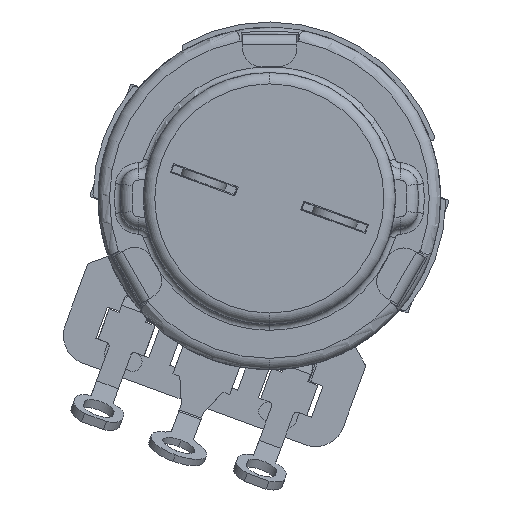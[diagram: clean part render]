
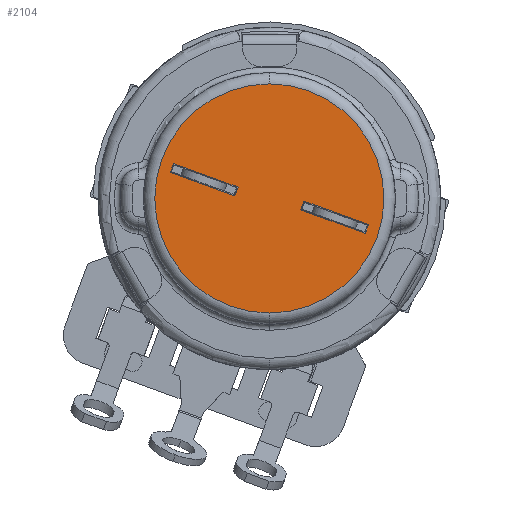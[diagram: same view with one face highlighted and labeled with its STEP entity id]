
A CAD part, front view. The second image highlights one B-rep face of the part: STEP entity #2104.
In plain terms, the highlighted planar face has unit normal (0, -1, 0).
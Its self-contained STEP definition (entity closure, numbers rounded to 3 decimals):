
#1122 = VERTEX_POINT ( 'NONE', #14510 ) ;
#1621 = VERTEX_POINT ( 'NONE', #24437 ) ;
#1655 = CARTESIAN_POINT ( 'NONE',  ( -2.382, 0., 0.178 ) ) ;
#1761 = DIRECTION ( 'NONE',  ( 0., 0., 1. ) ) ;
#1810 = DIRECTION ( 'NONE',  ( 0.94, 0., -0.342 ) ) ;
#1866 = VECTOR ( 'NONE', #20699, 1000. ) ;
#1907 = PLANE ( 'NONE',  #27966 ) ;
#2078 = VERTEX_POINT ( 'NONE', #2204 ) ;
#2104 = ADVANCED_FACE ( 'NONE', ( #17840, #26489, #6535 ), #1907, .F. ) ;
#2204 = CARTESIAN_POINT ( 'NONE',  ( -6.611, 0., 2.406 ) ) ;
#2233 = CARTESIAN_POINT ( 'NONE',  ( 6.611, 0., -2.406 ) ) ;
#2638 = CARTESIAN_POINT ( 'NONE',  ( 0., 0., 0. ) ) ;
#3034 = EDGE_CURVE ( 'NONE', #10848, #2078, #11618, .T. ) ;
#3601 = AXIS2_PLACEMENT_3D ( 'NONE', #2638, #11717, #18420 ) ;
#3734 = EDGE_LOOP ( 'NONE', ( #11637, #5419, #7042, #28507 ) ) ;
#3819 = CARTESIAN_POINT ( 'NONE',  ( 6.833, 0., -1.798 ) ) ;
#3838 = DIRECTION ( 'NONE',  ( 0., 1., 0. ) ) ;
#4806 = LINE ( 'NONE', #13888, #14858 ) ;
#4855 = EDGE_CURVE ( 'NONE', #7430, #20958, #13603, .T. ) ;
#5419 = ORIENTED_EDGE ( 'NONE', *, *, #17107, .F. ) ;
#5718 = ORIENTED_EDGE ( 'NONE', *, *, #3034, .F. ) ;
#6005 = LINE ( 'NONE', #12268, #27717 ) ;
#6335 = VERTEX_POINT ( 'NONE', #11236 ) ;
#6406 = DIRECTION ( 'NONE',  ( 0.342, 0., 0.94 ) ) ;
#6535 = FACE_OUTER_BOUND ( 'NONE', #15037, .T. ) ;
#7042 = ORIENTED_EDGE ( 'NONE', *, *, #12045, .F. ) ;
#7050 = VERTEX_POINT ( 'NONE', #2233 ) ;
#7430 = VERTEX_POINT ( 'NONE', #18668 ) ;
#9025 = CARTESIAN_POINT ( 'NONE',  ( 0., 0., 0. ) ) ;
#9238 = CARTESIAN_POINT ( 'NONE',  ( -6.611, 0., 2.406 ) ) ;
#9321 = DIRECTION ( 'NONE',  ( 0., 0., 1. ) ) ;
#9551 = DIRECTION ( 'NONE',  ( -0.342, 0., -0.94 ) ) ;
#9868 = CARTESIAN_POINT ( 'NONE',  ( -2.16, 0., 0.786 ) ) ;
#10848 = VERTEX_POINT ( 'NONE', #9868 ) ;
#10851 = CARTESIAN_POINT ( 'NONE',  ( -2.16, 0., 0.786 ) ) ;
#10877 = EDGE_LOOP ( 'NONE', ( #28979, #5718, #24051, #13261 ) ) ;
#10963 = VECTOR ( 'NONE', #13677, 1000. ) ;
#11211 = ORIENTED_EDGE ( 'NONE', *, *, #4855, .T. ) ;
#11236 = CARTESIAN_POINT ( 'NONE',  ( -2.382, 0., 0.178 ) ) ;
#11618 = LINE ( 'NONE', #9238, #1866 ) ;
#11637 = ORIENTED_EDGE ( 'NONE', *, *, #28220, .F. ) ;
#11681 = CARTESIAN_POINT ( 'NONE',  ( 2.16, 0., -0.786 ) ) ;
#11682 = VECTOR ( 'NONE', #22427, 1000. ) ;
#11717 = DIRECTION ( 'NONE',  ( 0., -1., 0. ) ) ;
#11850 = DIRECTION ( 'NONE',  ( 0., -1., 0. ) ) ;
#11912 = VERTEX_POINT ( 'NONE', #11681 ) ;
#12045 = EDGE_CURVE ( 'NONE', #11912, #7050, #6005, .T. ) ;
#12268 = CARTESIAN_POINT ( 'NONE',  ( 2.16, 0., -0.786 ) ) ;
#12977 = LINE ( 'NONE', #1655, #24611 ) ;
#13261 = ORIENTED_EDGE ( 'NONE', *, *, #25197, .F. ) ;
#13603 = CIRCLE ( 'NONE', #3601, 7.899 ) ;
#13677 = DIRECTION ( 'NONE',  ( -0.342, 0., -0.94 ) ) ;
#13888 = CARTESIAN_POINT ( 'NONE',  ( 2.382, 0., -0.178 ) ) ;
#14400 = EDGE_CURVE ( 'NONE', #1122, #11912, #4806, .T. ) ;
#14510 = CARTESIAN_POINT ( 'NONE',  ( 2.382, 0., -0.178 ) ) ;
#14686 = LINE ( 'NONE', #28530, #19193 ) ;
#14794 = DIRECTION ( 'NONE',  ( 0.94, 0., -0.342 ) ) ;
#14858 = VECTOR ( 'NONE', #9551, 1000. ) ;
#15037 = EDGE_LOOP ( 'NONE', ( #11211, #23340 ) ) ;
#17107 = EDGE_CURVE ( 'NONE', #7050, #1621, #14686, .T. ) ;
#17706 = LINE ( 'NONE', #10851, #19506 ) ;
#17840 = FACE_BOUND ( 'NONE', #10877, .T. ) ;
#18420 = DIRECTION ( 'NONE',  ( 0., 0., 1. ) ) ;
#18668 = CARTESIAN_POINT ( 'NONE',  ( 0., 0., 7.899 ) ) ;
#19189 = EDGE_CURVE ( 'NONE', #6335, #10848, #17706, .T. ) ;
#19193 = VECTOR ( 'NONE', #19271, 1000. ) ;
#19271 = DIRECTION ( 'NONE',  ( 0.342, 0., 0.94 ) ) ;
#19506 = VECTOR ( 'NONE', #6406, 1000. ) ;
#19733 = EDGE_CURVE ( 'NONE', #20958, #7430, #20022, .T. ) ;
#19918 = CARTESIAN_POINT ( 'NONE',  ( 0., 0., 0. ) ) ;
#20022 = CIRCLE ( 'NONE', #21432, 7.899 ) ;
#20699 = DIRECTION ( 'NONE',  ( -0.94, 0., 0.342 ) ) ;
#20701 = CARTESIAN_POINT ( 'NONE',  ( 0., 0., -7.899 ) ) ;
#20958 = VERTEX_POINT ( 'NONE', #20701 ) ;
#21311 = EDGE_CURVE ( 'NONE', #2078, #27718, #25155, .T. ) ;
#21432 = AXIS2_PLACEMENT_3D ( 'NONE', #9025, #11850, #9321 ) ;
#22427 = DIRECTION ( 'NONE',  ( -0.94, 0., 0.342 ) ) ;
#23187 = CARTESIAN_POINT ( 'NONE',  ( -6.833, 0., 1.798 ) ) ;
#23340 = ORIENTED_EDGE ( 'NONE', *, *, #19733, .T. ) ;
#24051 = ORIENTED_EDGE ( 'NONE', *, *, #19189, .F. ) ;
#24223 = LINE ( 'NONE', #3819, #11682 ) ;
#24437 = CARTESIAN_POINT ( 'NONE',  ( 6.833, 0., -1.798 ) ) ;
#24611 = VECTOR ( 'NONE', #1810, 1000. ) ;
#25155 = LINE ( 'NONE', #23187, #10963 ) ;
#25197 = EDGE_CURVE ( 'NONE', #27718, #6335, #12977, .T. ) ;
#26489 = FACE_BOUND ( 'NONE', #3734, .T. ) ;
#26649 = CARTESIAN_POINT ( 'NONE',  ( -6.833, 0., 1.798 ) ) ;
#27717 = VECTOR ( 'NONE', #14794, 1000. ) ;
#27718 = VERTEX_POINT ( 'NONE', #26649 ) ;
#27966 = AXIS2_PLACEMENT_3D ( 'NONE', #19918, #3838, #1761 ) ;
#28220 = EDGE_CURVE ( 'NONE', #1621, #1122, #24223, .T. ) ;
#28507 = ORIENTED_EDGE ( 'NONE', *, *, #14400, .F. ) ;
#28530 = CARTESIAN_POINT ( 'NONE',  ( 6.611, 0., -2.406 ) ) ;
#28979 = ORIENTED_EDGE ( 'NONE', *, *, #21311, .F. ) ;
